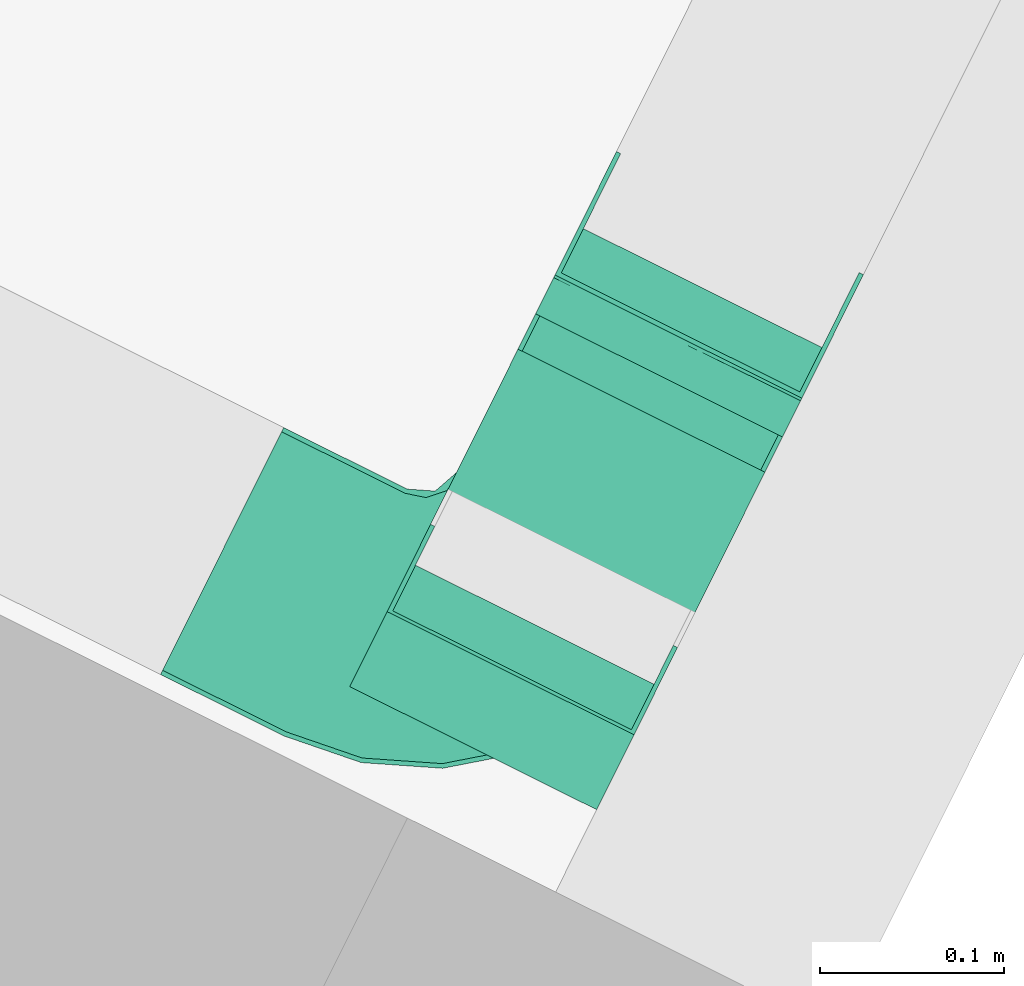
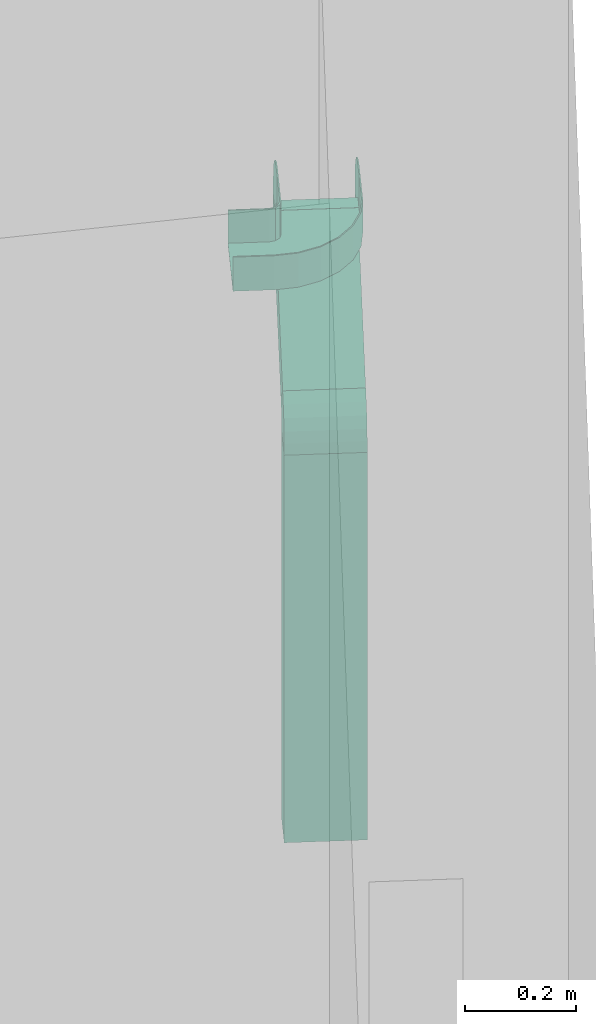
# One storey, part 20 of 34: 4 flow fittings, 2 flow segments.
"""IFC2X3 building model written with IfcOpenShell, lengths in metres."""

from ifc_helpers import new_model, entity, si_unit, converted_unit, derived_unit, direction, frame, frame_2d, origin, origin_2d_with_axis, place, context, subcontext, project, spatial, rectangle, extrude, faceted_brep, source, transform, mapped, type_object, type_shapes, element, save


model = new_model("IFC2X3")

# Units and contexts
model_context = context("Model", 3, precision=1e-05, world=origin(), true_north=direction((0.894925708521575, 0.446215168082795)))
context_of_model = context(None, 3, precision=1e-05, world=origin(), true_north=direction((0.894925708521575, 0.446215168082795)))
body_context = subcontext(model_context, "Body", "Model", "MODEL_VIEW")
ifc_project = project(units=[si_unit("LENGTHUNIT", "METRE"), si_unit("AREAUNIT", "SQUARE_METRE"), si_unit("VOLUMEUNIT", "CUBIC_METRE"), converted_unit("PLANEANGLEUNIT", "DEGREE", entity("IfcRatioMeasure", 0.0174532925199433), si_unit("PLANEANGLEUNIT", "RADIAN"), dimensions=[0, 0, 0, 0, 0, 0, 0]), si_unit("MASSUNIT", "GRAM", prefix="KILO"), si_unit("TIMEUNIT", "SECOND"), si_unit("FREQUENCYUNIT", "HERTZ"), si_unit("THERMODYNAMICTEMPERATUREUNIT", "DEGREE_CELSIUS"), derived_unit("THERMALTRANSMITTANCEUNIT", [(si_unit("MASSUNIT", "GRAM", prefix="KILO"), 1), (si_unit("THERMODYNAMICTEMPERATUREUNIT", "KELVIN"), -1), (si_unit("TIMEUNIT", "SECOND"), -3)]), derived_unit("VOLUMETRICFLOWRATEUNIT", [(si_unit("LENGTHUNIT", "METRE"), 3), (si_unit("TIMEUNIT", "SECOND"), -1)]), si_unit("ELECTRICCURRENTUNIT", "AMPERE"), si_unit("ELECTRICVOLTAGEUNIT", "VOLT"), si_unit("POWERUNIT", "WATT"), si_unit("FORCEUNIT", "NEWTON", prefix="KILO"), si_unit("ILLUMINANCEUNIT", "LUX"), si_unit("LUMINOUSFLUXUNIT", "LUMEN"), si_unit("LUMINOUSINTENSITYUNIT", "CANDELA"), si_unit("PRESSUREUNIT", "PASCAL")], contexts=[model_context, context_of_model])

# Site, building, storey
site_placement = place(None, frame((218.228324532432, 584.720189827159, 0.0), z_axis=(0.0, 0.0, 1.0), x_axis=(0.446215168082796, 0.894925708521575, 0.0)))
site = spatial("IfcSite", under=ifc_project, at=site_placement, Name="Default", CompositionType="ELEMENT")
building_placement = place(site_placement, origin())
building = spatial("IfcBuilding", under=site, at=building_placement, CompositionType="ELEMENT")
storey_placement = place(building_placement, frame((0.0, 0.0, 8.61)))
storey = spatial("IfcBuildingStorey", under=building, at=storey_placement, Name="2 - Piano Secondo", CompositionType="ELEMENT", Elevation=8.61)

# Flow segments
cable_carrier_segment_type = type_object("IfcCableCarrierSegmentType", Name="Passerella con raccordi:Passerella canale", PredefinedType="NOTDEFINED")
flow_segment_1_placement = place(storey_placement, frame((-4.53437167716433, -13.2010789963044, 1.0675)))
element("IfcFlowSegment", 1, at=flow_segment_1_placement, inside=storey, type_object=cable_carrier_segment_type, Name="Passerella con raccordi:Passerella canale", ObjectType="Passerella con raccordi:Passerella canale", context=body_context, shape_type="SweptSolid", body=[
    extrude(rectangle(XDim=0.150000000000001, YDim=0.0750000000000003, at=origin_2d_with_axis()), frame((0.0375000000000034, 0.0750000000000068, 0.0), z_axis=(0.0, 0.0, 1.0), x_axis=(0.0, -1.0, 0.0)), (0.0, 0.0, 1.0), 0.852365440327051),
])
flow_segment_2_placement = place(storey_placement, frame((-4.48886915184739, -13.2010789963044, 1.97668524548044)))
element("IfcFlowSegment", 2, at=flow_segment_2_placement, inside=storey, type_object=cable_carrier_segment_type, Name="Passerella con raccordi:Passerella canale", ObjectType="Passerella con raccordi:Passerella canale", context=body_context, shape_type="SweptSolid", body=[
    extrude(rectangle(XDim=0.0749999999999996, YDim=0.150000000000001, at=frame_2d((0.0, 0.0), x_axis=(0.0, 1.0))), frame((0.0265165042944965, 0.0750000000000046, 0.0265165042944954), z_axis=(0.707106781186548, 0.0, 0.707106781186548), x_axis=(0.0, -1.0, 0.0)), (0.0, 0.0, 1.0), 0.25591883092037),
])

# Flow fittings
cable_carrier_fitting_type_1 = type_object("IfcCableCarrierFittingType", Name="Standard", PredefinedType="NOTDEFINED")
shared_shape_1 = source(origin(), body_context, "Body", "Brep", [
    faceted_brep([(-0.169999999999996, -0.0749999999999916, -0.0375000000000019), (-0.169999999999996, -0.0749999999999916, 0.0374999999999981), (-0.169999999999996, -0.0724600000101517, 0.0374999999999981), (-0.169999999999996, -0.0724600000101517, -0.0349600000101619), (-0.169999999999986, 0.0724600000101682, -0.0349600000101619), (-0.169999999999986, 0.0724600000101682, 0.0374999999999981), (-0.169999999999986, 0.0750000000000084, 0.0374999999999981), (-0.169999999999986, 0.0750000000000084, -0.0375000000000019), (0.0724600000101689, -0.169999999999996, -0.0349600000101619), (-0.0724600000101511, -0.169999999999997, -0.0349600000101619), (-0.0724600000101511, -0.169999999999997, 0.0374999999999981), (-0.0749999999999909, -0.169999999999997, 0.0374999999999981), (-0.0749999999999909, -0.169999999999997, -0.0375000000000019), (0.075000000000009, -0.169999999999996, -0.0375000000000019), (0.075000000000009, -0.169999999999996, 0.0374999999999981), (0.0724600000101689, -0.169999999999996, 0.0374999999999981), (-0.09499999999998, 0.0750000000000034, 0.0374999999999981), (-0.0949999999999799, 0.0750000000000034, -0.0375000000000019), (-0.0949999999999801, 0.0724600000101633, 0.0374999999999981), (-0.0516581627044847, 0.0667539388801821, 0.0374999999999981), (-0.011269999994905, 0.0500246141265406, 0.0374999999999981), (0.023412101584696, 0.023412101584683, 0.0374999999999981), (0.0500246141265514, -0.0112699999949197, 0.0374999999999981), (0.0667539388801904, -0.0516581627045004, 0.0374999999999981), (0.0724600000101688, -0.0949999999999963, 0.0374999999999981), (0.0750000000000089, -0.0949999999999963, 0.0374999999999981), (0.069207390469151, -0.0510007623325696, 0.0374999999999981), (0.0522243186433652, -0.0099999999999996, 0.0374999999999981), (0.0252081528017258, 0.0252081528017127, 0.0374999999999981), (-0.00999999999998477, 0.0522243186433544, 0.0374999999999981), (-0.0510007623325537, 0.0692073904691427, 0.0374999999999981), (-0.0949999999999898, -0.0749999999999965, 0.0374999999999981), (-0.0917283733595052, -0.0763551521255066, 0.0374999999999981), (-0.0884567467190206, -0.0777103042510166, 0.0374999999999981), (-0.0846573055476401, -0.0792840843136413, 0.0374999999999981), (-0.0808578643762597, -0.080857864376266, 0.0374999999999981), (-0.0793933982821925, -0.0843933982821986, 0.0374999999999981), (-0.0779289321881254, -0.0879289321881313, 0.0374999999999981), (-0.0763551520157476, -0.0917283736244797, 0.0374999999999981), (-0.0749999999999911, -0.0949999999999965, 0.0374999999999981), (-0.0724600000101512, -0.0949999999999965, 0.0374999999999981), (-0.0736114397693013, -0.0907027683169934, 0.0374999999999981), (-0.0754797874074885, -0.083730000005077, 0.0374999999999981), (-0.0796048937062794, -0.0796048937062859, 0.0374999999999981), (-0.0837300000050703, -0.0754797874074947, 0.0374999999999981), (-0.08936500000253, -0.0739698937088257, 0.0374999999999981), (-0.0949999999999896, -0.0724600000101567, 0.0374999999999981), (-0.0949999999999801, 0.0724600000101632, -0.0349600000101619), (-0.0949999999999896, -0.0724600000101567, -0.0349600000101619), (-0.0907027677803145, -0.0736114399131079, -0.0349600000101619), (-0.0837300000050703, -0.0754797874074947, -0.0349600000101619), (-0.0796048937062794, -0.0796048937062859, -0.0349600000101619), (-0.0754797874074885, -0.083730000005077, -0.0349600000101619), (-0.0739698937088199, -0.0893650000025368, -0.0349600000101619), (-0.0724600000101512, -0.0949999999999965, -0.0349600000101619), (0.0724600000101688, -0.0949999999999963, -0.0349600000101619), (0.0667539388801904, -0.0516581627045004, -0.0349600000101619), (0.0500246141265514, -0.0112699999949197, -0.0349600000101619), (0.023412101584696, 0.023412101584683, -0.0349600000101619), (-0.011269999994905, 0.0500246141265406, -0.0349600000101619), (-0.0516581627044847, 0.0667539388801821, -0.0349600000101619), (-0.0949999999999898, -0.0749999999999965, -0.0375000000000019), (0.0750000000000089, -0.0949999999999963, -0.0375000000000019), (-0.0749999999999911, -0.0949999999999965, -0.0375000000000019), (-0.0764644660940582, -0.0914644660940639, -0.0375000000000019), (-0.0779289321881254, -0.0879289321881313, -0.0375000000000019), (-0.0793933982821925, -0.0843933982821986, -0.0375000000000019), (-0.0808578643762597, -0.080857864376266, -0.0375000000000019), (-0.0843933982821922, -0.0793933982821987, -0.0375000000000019), (-0.0879289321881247, -0.0779289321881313, -0.0375000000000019), (-0.0914644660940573, -0.0764644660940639, -0.0375000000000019), (-0.0510007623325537, 0.0692073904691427, -0.0375000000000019), (-0.00999999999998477, 0.0522243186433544, -0.0375000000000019), (0.0252081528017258, 0.0252081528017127, -0.0375000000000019), (0.0522243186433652, -0.0099999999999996, -0.0375000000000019), (0.069207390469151, -0.0510007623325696, -0.0375000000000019)], [[[0, 1, 2, 3, 4, 5, 6, 7]], [[8, 9, 10, 11, 12, 13, 14, 15]], [[16, 17, 7, 6]], [[16, 6, 5, 18, 19, 20, 21, 22, 23, 24, 15, 14, 25, 26, 27, 28, 29, 30]], [[1, 31, 32, 33, 34, 35, 36, 37, 38, 39, 11, 10, 40, 41, 42, 43, 44, 45, 46, 2]], [[47, 18, 5, 4]], [[47, 4, 3, 48, 49, 50, 51, 52, 53, 54, 9, 8, 55, 56, 57, 58, 59, 60]], [[48, 3, 2, 46]], [[31, 1, 0, 61]], [[62, 13, 12, 63, 64, 65, 66, 67, 68, 69, 70, 61, 0, 7, 17, 71, 72, 73, 74, 75]], [[71, 17, 16, 30]], [[72, 71, 30, 29]], [[72, 29, 28, 73]], [[75, 74, 27, 26]], [[62, 75, 26, 25]], [[28, 27, 74, 73]], [[19, 18, 47, 60]], [[20, 19, 60, 59]], [[21, 20, 59, 58]], [[22, 57, 56, 23]], [[23, 56, 55, 24]], [[58, 57, 22, 21]], [[44, 50, 49, 48, 46, 45]], [[43, 42, 52, 51, 50, 44]], [[41, 40, 54, 53, 52, 42]], [[33, 32, 31, 61, 70, 69, 68, 67, 35, 34]], [[35, 67, 66, 65, 64, 63, 39, 38, 37, 36]], [[13, 62, 25, 14]], [[15, 24, 55, 8]], [[9, 54, 40, 10]], [[11, 39, 63, 12]]]),
])
type_shapes(cable_carrier_fitting_type_1, [shared_shape_1])
flow_fitting_1_placement = place(storey_placement, frame((-4.49937167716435, -13.1260789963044, 2.35), z_axis=(0.0, 0.0, 1.0), x_axis=(-1.0, 0.0, 0.0)))
element("IfcFlowFitting", 3, at=flow_fitting_1_placement, inside=storey, type_object=cable_carrier_fitting_type_1, Name="M_Curvatura orizzontale canale:Standard", ObjectType="Standard", context=body_context, shape_type="MappedRepresentation", body=[
    mapped(shared_shape_1, transform((0.0, 0.0, 0.0), scale=1.0)),
])
cable_carrier_fitting_type_2 = type_object("IfcCableCarrierFittingType", Name="Standard", PredefinedType="NOTDEFINED")
shared_shape_2 = source(origin(), body_context, "Body", "Brep", [
    faceted_brep([(-0.0824999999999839, -0.0375000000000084, -0.0750000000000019), (-0.0824999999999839, -0.0375000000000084, -0.0724600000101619), (-0.0824999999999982, 0.0349600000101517, -0.0724600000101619), (-0.0824999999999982, 0.0349600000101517, 0.0724600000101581), (-0.0824999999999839, -0.0375000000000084, 0.0724600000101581), (-0.0824999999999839, -0.0375000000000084, 0.0749999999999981), (-0.0824999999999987, 0.0374999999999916, 0.0749999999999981), (-0.0824999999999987, 0.0374999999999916, -0.0750000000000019), (-0.0374999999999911, 0.0824999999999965, -0.0750000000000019), (-0.0374999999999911, 0.0824999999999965, 0.0749999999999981), (0.0375000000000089, 0.0824999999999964, 0.0749999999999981), (0.0375000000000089, 0.0824999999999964, 0.0724600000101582), (-0.0349600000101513, 0.0824999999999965, 0.0724600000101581), (-0.0349600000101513, 0.0824999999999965, -0.0724600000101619), (0.0375000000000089, 0.0824999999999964, -0.0724600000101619), (0.0375000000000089, 0.0824999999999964, -0.0750000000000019), (-0.057499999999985, -0.0375000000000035, 0.0749999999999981), (-0.0470387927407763, -0.0358431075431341, 0.0749999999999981), (-0.0375910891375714, -0.0343467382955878, 0.0749999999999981), (-0.0281433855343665, -0.0328503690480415, 0.0749999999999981), (-0.0149018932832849, -0.0261034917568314, 0.0749999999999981), (-0.00166040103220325, -0.0193566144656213, 0.0749999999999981), (0.0088481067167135, -0.00884810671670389, 0.0749999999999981), (0.0193566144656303, 0.00166040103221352, 0.0749999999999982), (0.0261034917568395, 0.0149018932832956, 0.0749999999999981), (0.0328503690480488, 0.0281433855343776, 0.0749999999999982), (0.0343467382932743, 0.0375910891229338, 0.0749999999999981), (0.0358431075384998, 0.04703879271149, 0.0749999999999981), (0.0375000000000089, 0.0574999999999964, 0.0749999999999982), (-0.0374999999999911, 0.0574999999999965, 0.0749999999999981), (-0.0388551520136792, 0.0542283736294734, 0.0749999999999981), (-0.0404289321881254, 0.0504289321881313, 0.0749999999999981), (-0.0418933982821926, 0.0468933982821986, 0.0749999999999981), (-0.0433578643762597, 0.043357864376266, 0.0749999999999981), (-0.0471573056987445, 0.0417840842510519, 0.0749999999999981), (-0.0509567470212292, 0.0402103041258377, 0.0749999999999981), (-0.0542283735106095, 0.0388551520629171, 0.0749999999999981), (-0.0574999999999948, 0.0374999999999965, 0.0749999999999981), (-0.0574999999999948, 0.0374999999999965, -0.0750000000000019), (-0.0539644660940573, 0.0389644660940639, -0.0750000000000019), (-0.0504289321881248, 0.0404289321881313, -0.0750000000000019), (-0.0468933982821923, 0.0418933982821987, -0.0750000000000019), (-0.0433578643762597, 0.043357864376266, -0.0750000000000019), (-0.0418933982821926, 0.0468933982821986, -0.0750000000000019), (-0.0404289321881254, 0.0504289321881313, -0.0750000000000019), (-0.0389644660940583, 0.0539644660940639, -0.0750000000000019), (-0.0374999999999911, 0.0574999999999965, -0.0750000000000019), (0.0375000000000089, 0.0574999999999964, -0.0750000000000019), (0.0358431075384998, 0.0470387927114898, -0.0750000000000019), (0.0343467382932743, 0.0375910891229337, -0.0750000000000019), (0.0328503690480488, 0.0281433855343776, -0.0750000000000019), (0.0261034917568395, 0.0149018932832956, -0.0750000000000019), (0.0193566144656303, 0.00166040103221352, -0.0750000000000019), (0.0088481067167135, -0.00884810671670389, -0.0750000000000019), (-0.00166040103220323, -0.0193566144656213, -0.0750000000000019), (-0.0149018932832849, -0.0261034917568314, -0.0750000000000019), (-0.0281433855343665, -0.0328503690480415, -0.0750000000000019), (-0.0428216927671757, -0.0351751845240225, -0.0750000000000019), (-0.05749999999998, -0.0375000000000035, -0.0750000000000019), (-0.05749999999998, -0.0375000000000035, -0.0724600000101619), (-0.05749999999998, -0.0375000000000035, 0.0724600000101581), (-0.0428216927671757, -0.0351751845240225, -0.0724600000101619), (-0.0281433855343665, -0.0328503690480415, -0.0724600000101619), (-0.0149018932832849, -0.0261034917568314, -0.0724600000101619), (-0.00166040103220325, -0.0193566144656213, -0.0724600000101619), (0.0088481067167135, -0.00884810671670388, -0.0724600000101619), (0.0193566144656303, 0.00166040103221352, -0.0724600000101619), (0.0261034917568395, 0.0149018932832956, -0.0724600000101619), (0.0328503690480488, 0.0281433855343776, -0.0724600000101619), (0.0351751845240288, 0.042821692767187, -0.0724600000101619), (0.0375000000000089, 0.0574999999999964, -0.0724600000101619), (-0.0349600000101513, 0.0574999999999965, -0.0724600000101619), (-0.03646989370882, 0.0518650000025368, -0.0724600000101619), (-0.0379797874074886, 0.046230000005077, -0.0724600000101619), (-0.0421048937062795, 0.0421048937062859, -0.0724600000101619), (-0.0462300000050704, 0.0379797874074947, -0.0724600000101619), (-0.05186500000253, 0.0364698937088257, -0.0724600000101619), (-0.0574999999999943, 0.0349600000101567, -0.0724600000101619), (-0.0574999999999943, 0.0349600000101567, 0.0724600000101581), (-0.0281433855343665, -0.0328503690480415, 0.0724600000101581), (-0.0428216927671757, -0.0351751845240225, 0.0724600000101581), (-0.0532027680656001, 0.0361114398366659, 0.0724600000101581), (-0.0462300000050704, 0.0379797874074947, 0.0724600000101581), (-0.0421048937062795, 0.0421048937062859, 0.0724600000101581), (-0.0379797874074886, 0.046230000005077, 0.0724600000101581), (-0.0361114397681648, 0.053202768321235, 0.0724600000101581), (-0.0349600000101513, 0.0574999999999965, 0.0724600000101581), (0.0375000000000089, 0.0574999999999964, 0.0724600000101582), (0.0351751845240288, 0.042821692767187, 0.0724600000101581), (0.0328503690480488, 0.0281433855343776, 0.0724600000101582), (0.0261034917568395, 0.0149018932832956, 0.0724600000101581), (0.0193566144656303, 0.00166040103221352, 0.0724600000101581), (0.0088481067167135, -0.00884810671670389, 0.0724600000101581), (-0.00166040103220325, -0.0193566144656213, 0.0724600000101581), (-0.0149018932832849, -0.0261034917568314, 0.0724600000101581)], [[[0, 1, 2, 3, 4, 5, 6, 7]], [[8, 9, 10, 11, 12, 13, 14, 15]], [[6, 5, 16, 17, 18, 19, 20, 21, 22, 23, 24, 25, 26, 27, 28, 10, 9, 29, 30, 31, 32, 33, 34, 35, 36, 37]], [[7, 6, 37, 38]], [[7, 38, 39, 40, 41, 42, 43, 44, 45, 46, 8, 15, 47, 48, 49, 50, 51, 52, 53, 54, 55, 56, 57, 58, 0]], [[1, 0, 58, 59]], [[5, 4, 60, 16]], [[2, 1, 59, 61, 62, 63, 64, 65, 66, 67, 68, 69, 70, 14, 13, 71, 72, 73, 74, 75, 76, 77]], [[3, 2, 77, 78]], [[79, 80, 60, 4, 3, 78, 81, 82, 83, 84, 85, 86, 12, 11, 87, 88, 89, 90, 91, 92, 93, 94]], [[34, 33, 42, 41, 40, 39, 38, 37, 36, 35]], [[32, 31, 30, 29, 46, 45, 44, 43, 42, 33]], [[56, 62, 61, 59, 58, 57]], [[18, 17, 16, 60, 80, 79, 19]], [[63, 62, 56, 55, 54, 64]], [[79, 94, 93, 21, 20, 19]], [[68, 50, 49, 48, 47, 70, 69]], [[88, 87, 28, 27, 26, 25, 89]], [[64, 54, 53, 52, 66, 65]], [[23, 22, 21, 93, 92, 91]], [[67, 66, 52, 51, 50, 68]], [[91, 90, 89, 25, 24, 23]], [[82, 81, 78, 77, 76, 75]], [[73, 84, 83, 82, 75, 74]], [[71, 86, 85, 84, 73, 72]], [[46, 29, 9, 8]], [[70, 47, 15, 14]], [[28, 87, 11, 10]], [[86, 71, 13, 12]]]),
])
type_shapes(cable_carrier_fitting_type_2, [shared_shape_2])
flow_fitting_2_placement = place(storey_placement, frame((-4.24687167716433, -13.1260789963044, 2.34999999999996), z_axis=(0.0, 1.0, 0.0), x_axis=(1.0, 0.0, 0.0)))
element("IfcFlowFitting", 4, at=flow_fitting_2_placement, inside=storey, type_object=cable_carrier_fitting_type_2, Name="M_Curvatura esterna verticale canale:Standard", ObjectType="Standard", context=body_context, shape_type="MappedRepresentation", body=[
    mapped(shared_shape_2, transform((0.0, 0.0, 0.0), scale=1.0)),
])
cable_carrier_fitting_type_3 = type_object("IfcCableCarrierFittingType", Name="Standard", PredefinedType="NOTDEFINED")
shared_shape_3 = source(origin(), body_context, "Body", "Brep", [
    faceted_brep([(-0.0488172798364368, -0.0375000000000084, -0.0750000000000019), (-0.0488172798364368, -0.0375000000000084, -0.0724600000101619), (-0.0488172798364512, 0.0349600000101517, -0.0724600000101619), (-0.0488172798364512, 0.0349600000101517, 0.0724600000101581), (-0.0488172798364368, -0.0375000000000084, 0.0724600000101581), (-0.0488172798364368, -0.0375000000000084, 0.0749999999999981), (-0.0488172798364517, 0.0374999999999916, 0.0749999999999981), (-0.0488172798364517, 0.0374999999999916, -0.0750000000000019), (0.00800252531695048, 0.0610355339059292, -0.0750000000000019), (0.00800252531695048, 0.0610355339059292, 0.0749999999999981), (0.0610355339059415, 0.00800252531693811, 0.0749999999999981), (0.0610355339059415, 0.00800252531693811, 0.0724600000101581), (0.00979857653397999, 0.0592394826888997, 0.0724600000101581), (0.00979857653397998, 0.0592394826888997, -0.0724600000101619), (0.0610355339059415, 0.00800252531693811, -0.0724600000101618), (0.0610355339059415, 0.00800252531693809, -0.0750000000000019), (-0.0238172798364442, -0.0375000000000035, 0.0749999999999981), (-0.0133030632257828, -0.036115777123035, 0.0749999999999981), (0.000770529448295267, -0.034262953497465, 0.0749999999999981), (0.0122266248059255, -0.0295176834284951, 0.0749999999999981), (0.0236827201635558, -0.0247724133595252, 0.0749999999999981), (0.0335202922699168, -0.0172237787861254, 0.0749999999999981), (0.0433578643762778, -0.00967514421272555, 0.0749999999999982), (-0.00967514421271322, 0.0433578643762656, 0.0749999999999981), (-0.0141517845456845, 0.0403666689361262, 0.0749999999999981), (-0.0161636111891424, 0.0390224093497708, 0.0749999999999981), (-0.0199904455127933, 0.0382612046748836, 0.0749999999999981), (-0.0238172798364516, 0.0374999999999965, 0.0749999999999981), (-0.0238172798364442, 0.0374999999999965, -0.00307689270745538), (-0.0238172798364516, 0.0374999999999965, -0.0750000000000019), (-0.0185367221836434, 0.0385503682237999, -0.0750000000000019), (-0.0161636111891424, 0.0390224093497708, -0.0750000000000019), (-0.0129193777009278, 0.0411901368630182, -0.0750000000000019), (-0.0096751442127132, 0.0433578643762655, -0.0750000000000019), (0.0433578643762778, -0.00967514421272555, -0.0750000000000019), (0.0335202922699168, -0.0172237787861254, -0.0750000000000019), (0.0236827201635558, -0.0247724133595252, -0.0750000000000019), (0.0122266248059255, -0.0295176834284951, -0.0750000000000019), (0.000770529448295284, -0.034262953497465, -0.0750000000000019), (-0.0133030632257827, -0.036115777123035, -0.0750000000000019), (-0.0238172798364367, -0.0375000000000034, -0.0750000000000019), (-0.0238172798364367, -0.0375000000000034, -0.0724600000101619), (-0.0238172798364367, -0.0375000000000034, 0.0724600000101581), (-0.0115233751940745, -0.0358814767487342, -0.0724600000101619), (0.000770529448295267, -0.034262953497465, -0.0724600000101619), (0.0122266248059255, -0.0295176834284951, -0.0724600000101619), (0.0236827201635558, -0.0247724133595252, -0.0724600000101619), (0.0349443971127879, -0.0161310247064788, -0.0724600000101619), (0.0433578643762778, -0.00967514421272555, -0.0724600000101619), (-0.00787909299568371, 0.0415618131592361, -0.0724600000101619), (-0.0115353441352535, 0.0391187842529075, -0.0724600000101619), (-0.0151915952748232, 0.0366757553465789, -0.0724600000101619), (-0.0182114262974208, 0.0360750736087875, -0.0724600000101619), (-0.0238172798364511, 0.0349600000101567, -0.0724600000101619), (-0.0238172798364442, 0.0349600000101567, -0.0104266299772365), (-0.0238172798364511, 0.0349600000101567, 0.0724600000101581), (-0.0195044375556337, 0.0358178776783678, 0.0724600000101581), (-0.0151915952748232, 0.0366757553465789, 0.0724600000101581), (-0.012631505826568, 0.0383863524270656, 0.0724600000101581), (-0.00787909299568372, 0.041561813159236, 0.0724600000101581), (0.0433578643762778, -0.00967514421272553, 0.0724600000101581), (0.0335202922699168, -0.0172237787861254, 0.0724600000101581), (0.0236827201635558, -0.0247724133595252, 0.0724600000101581), (0.0122266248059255, -0.0295176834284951, 0.0724600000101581), (0.000770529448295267, -0.034262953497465, 0.0724600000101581), (-0.0115233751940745, -0.0358814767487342, 0.0724600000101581), (-0.0173020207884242, 0.0385909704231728, 0.0), (-0.0132021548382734, 0.0405495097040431, -0.00928633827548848), (-0.00967514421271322, 0.0433578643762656, 0.00307688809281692), (-0.0166423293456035, 0.0361324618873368, 0.0), (-0.00787909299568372, 0.0415618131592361, 0.0104266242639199), (-0.0120504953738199, 0.0382751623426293, -0.000444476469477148)], [[[0, 1, 2, 3, 4, 5, 6, 7]], [[8, 9, 10, 11, 12, 13, 14, 15]], [[5, 16, 17, 18, 19, 20, 21, 22, 10, 9, 23, 24, 25, 26, 27, 6]], [[7, 6, 27, 28, 29]], [[7, 29, 30, 31, 32, 33, 8, 15, 34, 35, 36, 37, 38, 39, 40, 0]], [[1, 0, 40, 41]], [[5, 4, 42, 16]], [[1, 41, 43, 44, 45, 46, 47, 48, 14, 13, 49, 50, 51, 52, 53, 2]], [[3, 2, 53, 54, 55]], [[3, 55, 56, 57, 58, 59, 12, 11, 60, 61, 62, 63, 64, 65, 42, 4]], [[28, 26, 66]], [[67, 68, 33]], [[30, 66, 31]], [[30, 29, 28]], [[26, 28, 27]], [[26, 25, 66]], [[24, 66, 25]], [[32, 31, 67, 33]], [[28, 66, 30]], [[67, 66, 24]], [[24, 23, 68]], [[68, 67, 24]], [[66, 67, 31]], [[43, 41, 40, 39, 38, 44]], [[18, 17, 16, 42, 65, 64]], [[44, 38, 37, 36, 46, 45]], [[20, 19, 18, 64, 63, 62]], [[47, 46, 36, 35, 34, 48]], [[22, 21, 20, 62, 61, 60]], [[56, 54, 69]], [[50, 49, 70]], [[70, 59, 58]], [[51, 50, 71]], [[54, 52, 69]], [[58, 71, 70]], [[57, 69, 71]], [[69, 57, 56]], [[51, 69, 52]], [[55, 54, 56]], [[54, 53, 52]], [[57, 71, 58]], [[51, 71, 69]], [[70, 71, 50]], [[8, 33, 68, 23, 9]], [[48, 34, 15, 14]], [[22, 60, 11, 10]], [[13, 12, 59, 70, 49]]]),
])
type_shapes(cable_carrier_fitting_type_3, [shared_shape_3])
flow_fitting_3_placement = place(storey_placement, frame((-4.24687167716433, -13.1260789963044, 2.21868272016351), z_axis=(0.0, -1.0, 0.0), x_axis=(0.707106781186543, 0.0, 0.707106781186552)))
element("IfcFlowFitting", 5, at=flow_fitting_3_placement, inside=storey, type_object=cable_carrier_fitting_type_3, Name="M_Curvatura esterna verticale canale:Standard", ObjectType="Standard", context=body_context, shape_type="MappedRepresentation", body=[
    mapped(shared_shape_3, transform((0.0, 0.0, 0.0), scale=1.0)),
])
cable_carrier_fitting_type_4 = type_object("IfcCableCarrierFittingType", Name="Standard", PredefinedType="NOTDEFINED")
shared_shape_4 = source(origin(), body_context, "Body", "Brep", [
    faceted_brep([(-0.0488172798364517, -0.0374999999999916, -0.0750000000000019), (-0.0488172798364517, -0.0374999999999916, -0.0724600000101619), (-0.0488172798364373, 0.0349600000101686, -0.0724600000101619), (-0.0488172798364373, 0.0349600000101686, 0.0724600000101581), (-0.0488172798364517, -0.0374999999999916, 0.0724600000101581), (-0.0488172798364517, -0.0374999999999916, 0.0749999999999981), (-0.0488172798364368, 0.0375000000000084, 0.0749999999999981), (-0.0488172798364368, 0.0375000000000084, -0.0750000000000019), (0.059239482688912, -0.00979857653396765, -0.0724600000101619), (0.00800252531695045, -0.0610355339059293, -0.0724600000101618), (0.00800252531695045, -0.0610355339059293, -0.0750000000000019), (0.0610355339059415, -0.00800252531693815, -0.0750000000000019), (0.0610355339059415, -0.00800252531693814, 0.0749999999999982), (0.00800252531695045, -0.0610355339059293, 0.0749999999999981), (0.00800252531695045, -0.0610355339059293, 0.0724600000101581), (0.059239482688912, -0.00979857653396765, 0.0724600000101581), (-0.0238172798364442, -0.0374999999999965, 0.0749999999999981), (-0.0199904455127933, -0.0382612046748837, 0.0749999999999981), (-0.0161636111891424, -0.0390224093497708, 0.0749999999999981), (-0.0129193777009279, -0.0411901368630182, 0.0749999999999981), (-0.00967514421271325, -0.0433578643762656, 0.0749999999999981), (0.0433578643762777, 0.0096751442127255, 0.0749999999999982), (0.0236827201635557, 0.0247724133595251, 0.0749999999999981), (0.000770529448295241, 0.034262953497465, 0.0749999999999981), (-0.0238172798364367, 0.0375000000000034, 0.0749999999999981), (-0.0238172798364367, 0.0375000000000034, -0.0750000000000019), (0.000770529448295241, 0.034262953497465, -0.0750000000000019), (0.0236827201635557, 0.0247724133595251, -0.0750000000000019), (0.0433578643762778, 0.00967514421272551, -0.0750000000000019), (-0.00967514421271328, -0.0433578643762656, -0.0750000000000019), (-0.0129193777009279, -0.0411901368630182, -0.0750000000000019), (-0.0161636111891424, -0.0390224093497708, -0.0750000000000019), (-0.0190619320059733, -0.0384458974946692, -0.0750000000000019), (-0.0238172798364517, -0.0374999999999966, -0.0750000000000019), (-0.0238172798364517, -0.0374999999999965, -0.0724600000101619), (-0.0238172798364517, -0.0374999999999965, 0.0724600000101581), (-0.0199904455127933, -0.0382612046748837, -0.0724600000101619), (-0.0161636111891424, -0.0390224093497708, -0.0724600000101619), (-0.0129193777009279, -0.0411901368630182, -0.0724600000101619), (-0.00967514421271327, -0.0433578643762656, -0.0724600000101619), (0.0415618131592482, 0.007879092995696, -0.0724600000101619), (0.0224127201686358, 0.0225727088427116, -0.0724600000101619), (0.000113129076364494, 0.0318095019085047, -0.0724600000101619), (-0.0238172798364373, 0.0349600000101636, -0.0724600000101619), (-0.0238172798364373, 0.0349600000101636, 0.0724600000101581), (0.000113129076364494, 0.0318095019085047, 0.0724600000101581), (0.0224127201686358, 0.0225727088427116, 0.0724600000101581), (0.0415618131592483, 0.00787909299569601, 0.0724600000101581), (-0.00967514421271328, -0.0433578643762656, 0.0724600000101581), (-0.0137065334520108, -0.0406641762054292, 0.0724600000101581), (-0.0161636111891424, -0.0390224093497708, 0.0724600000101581), (-0.0199904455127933, -0.0382612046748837, 0.0724600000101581)], [[[0, 1, 2, 3, 4, 5, 6, 7]], [[8, 9, 10, 11, 12, 13, 14, 15]], [[5, 16, 17, 18, 19, 20, 13, 12, 21, 22, 23, 24, 6]], [[24, 25, 7, 6]], [[7, 25, 26, 27, 28, 11, 10, 29, 30, 31, 32, 33, 0]], [[34, 1, 0, 33]], [[16, 5, 4, 35]], [[1, 34, 36, 37, 38, 39, 9, 8, 40, 41, 42, 43, 2]], [[43, 44, 3, 2]], [[3, 44, 45, 46, 47, 15, 14, 48, 49, 50, 51, 35, 4]], [[24, 23, 26, 25]], [[23, 22, 27, 26]], [[22, 21, 28, 27]], [[37, 36, 34, 33, 32, 31]], [[35, 51, 50, 18, 17, 16]], [[38, 37, 31, 30, 29, 39]], [[18, 50, 49, 48, 20, 19]], [[43, 42, 45, 44]], [[42, 41, 46, 45]], [[41, 40, 47, 46]], [[11, 28, 21, 12]], [[9, 39, 29, 10]], [[13, 20, 48, 14]], [[8, 15, 47, 40]]]),
])
type_shapes(cable_carrier_fitting_type_4, [shared_shape_4])
flow_fitting_4_placement = place(storey_placement, frame((-4.49687167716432, -13.1260789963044, 1.9686827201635), z_axis=(0.0, -1.0, 0.0), x_axis=(0.0, 0.0, 1.0)))
element("IfcFlowFitting", 6, at=flow_fitting_4_placement, inside=storey, type_object=cable_carrier_fitting_type_4, Name="M_Curvatura interna verticale canale:Standard", ObjectType="Standard", context=body_context, shape_type="MappedRepresentation", body=[
    mapped(shared_shape_4, transform((0.0, 0.0, 0.0), scale=1.0)),
])

save(model, "model.ifc")
